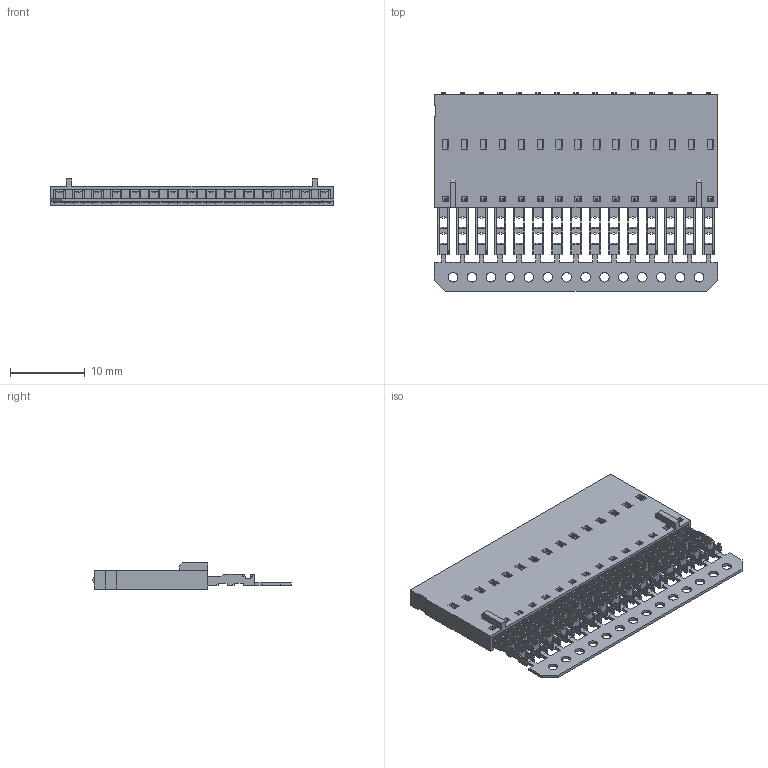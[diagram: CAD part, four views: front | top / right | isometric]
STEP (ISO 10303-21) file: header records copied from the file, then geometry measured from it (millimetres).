
FILE_DESCRIPTION((''),'2;1');
FILE_NAME('014451815','2016-10-21T',('gsharma'),(''),'PRO/ENGINEER BY PARAMETRIC TECHNOLOGY CORPORATION, 2012310','PRO/ENGINEER BY PARAMETRIC TECHNOLOGY CORPORATION, 2012310','');
FILE_SCHEMA(('CONFIG_CONTROL_DESIGN'));
Length unit declared in the file: millimetre
Products named in the file (1): 014451815
Bounding box: 38.07 x 26.71 x 3.53 mm (x, y, z)
Volume: 958.5 mm3; surface area: 5143.9 mm2
Topology: 1 solids, 1 shells, 2010 faces, 5807 edges, 3815 vertices
Faces by surface type: plane 1952, cylinder 58
Entity records: 64806 total; most frequent: CARTESIAN_POINT 11606, ORIENTED_EDGE 11586, DIRECTION 9947, EDGE_CURVE 5793, VECTOR 5691, LINE 5691, VERTEX_POINT 3787, EDGE_LOOP 2188
